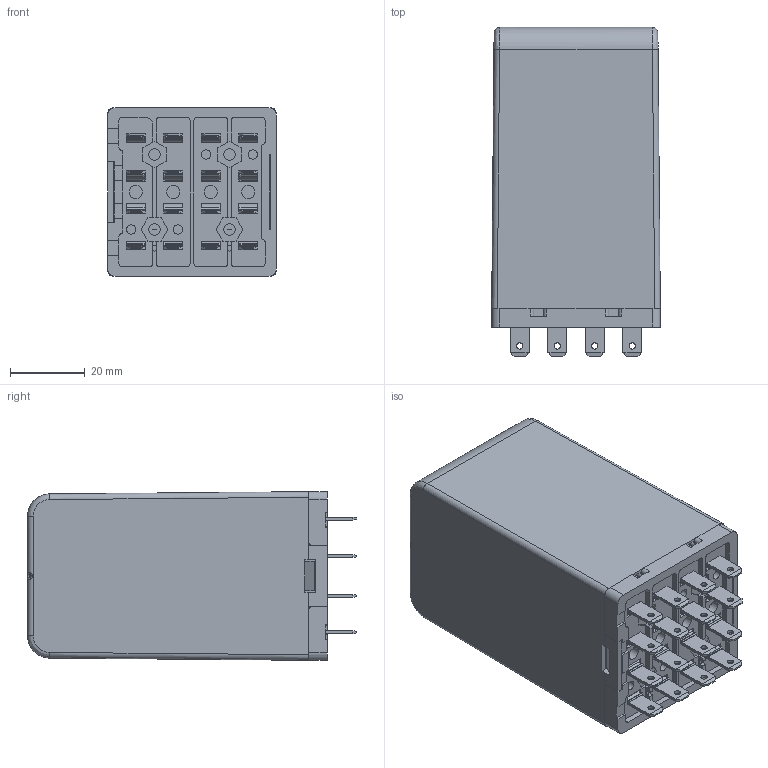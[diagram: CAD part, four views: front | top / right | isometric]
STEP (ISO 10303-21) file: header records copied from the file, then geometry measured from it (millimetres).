
FILE_DESCRIPTION(/* description */ ('Enveloppe de relais électronique E'),/* implementation_level */ '2;1');
FILE_NAME(/* name */ 'Z:\Relais\Projet\TEAU\Outline_TEAU.stp',/* time_stamp */ '2015-11-23T18:26:06+01:00',/* author */ ('ASCAILLIEREZ'),/* organization */ ('Mors Smitt France'),/* preprocessor_version */ 'ST-DEVELOPER v16.1',/* originating_system */ 'Autodesk Inventor 2016',/* authorisation */ '');
FILE_SCHEMA (('AUTOMOTIVE_DESIGN { 1 0 10303 214 3 1 1 }'));
Length unit declared in the file: centimetre
Products named in the file (1): Outline_TEAU
Bounding box: 45 x 87.8 x 45 mm (x, y, z)
Volume: 35733 mm3; surface area: 43799.7 mm2
Topology: 1 solids, 1 shells, 1283 faces, 3921 edges, 2516 vertices
Faces by surface type: plane 944, cylinder 305, bspline 14, torus 12, cone 6, sphere 2
Full cylindrical faces by diameter (mm): 1.6 x14, 1.7 x16, 2.5 x6, 2.625 x2, 3.1 x4, 3.15 x3, 3.5 x4
Entity records: 45528 total; most frequent: CARTESIAN_POINT 8325, ORIENTED_EDGE 7868, DIRECTION 7139, EDGE_CURVE 3849, LINE 3045, VECTOR 3045, VERTEX_POINT 2503, AXIS2_PLACEMENT_3D 2047
